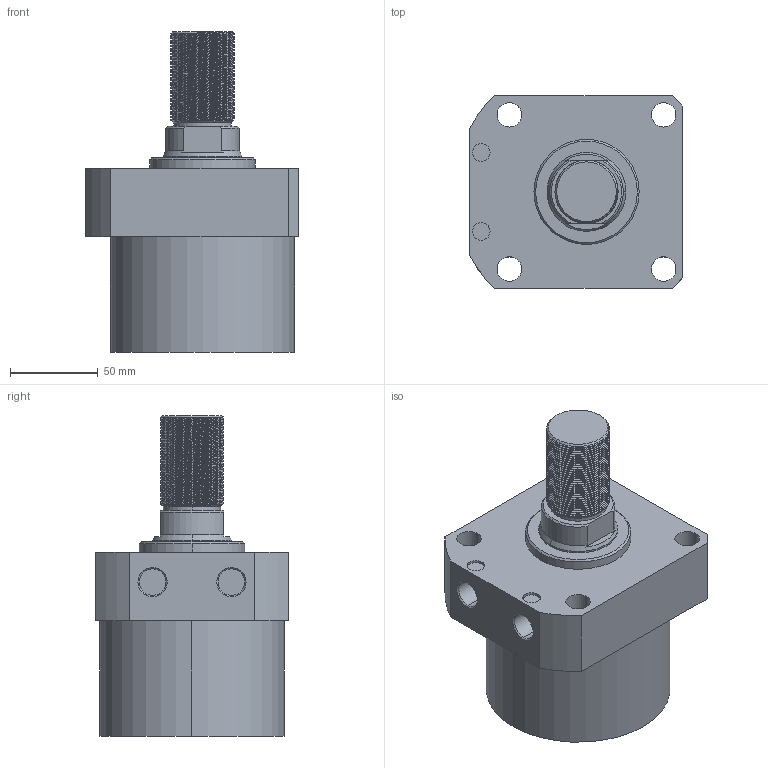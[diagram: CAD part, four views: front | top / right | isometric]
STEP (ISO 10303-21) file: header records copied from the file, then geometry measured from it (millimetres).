
FILE_DESCRIPTION (( 'STEP AP214' ), '1' );
FILE_NAME ('CLLR-105CT-045.STEP', '2020-01-09T07:51:31', ( 'Windows' ), ( 'Microsoft' ), 'SwSTEP 2.0', 'SolidWorks 2015', '' );
FILE_SCHEMA (( 'AUTOMOTIVE_DESIGN' ));
Length unit declared in the file: millimetre
Products named in the file (1): CLLR-105CT-045
Bounding box: 122 x 110 x 183 mm (x, y, z)
Volume: 1144452.7 mm3; surface area: 85987.3 mm2
Topology: 1 solids, 1 shells, 136 faces, 365 edges, 239 vertices
Faces by surface type: cylinder 97, plane 21, cone 16, bspline 2
Entity records: 8129 total; most frequent: CARTESIAN_POINT 5041, ORIENTED_EDGE 730, DIRECTION 562, EDGE_CURVE 365, VERTEX_POINT 239, AXIS2_PLACEMENT_3D 212, EDGE_LOOP 152, VECTOR 138
